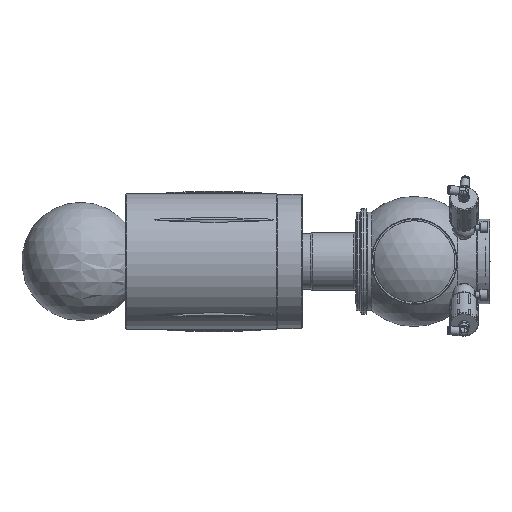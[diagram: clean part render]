
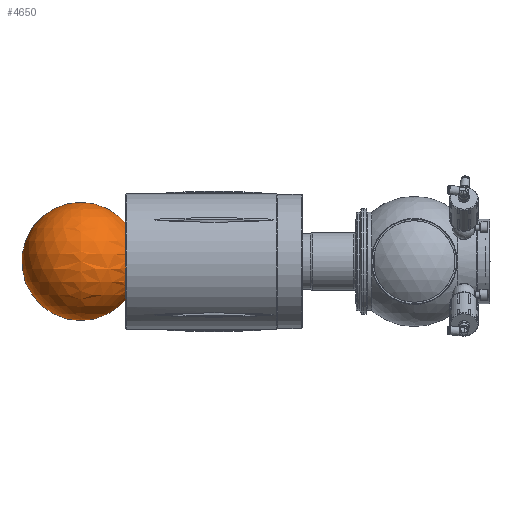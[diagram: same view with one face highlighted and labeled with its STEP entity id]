
A CAD part, left-side view. The second image highlights one B-rep face of the part: STEP entity #4650.
In plain terms, the highlighted spherical face has radius 72.5 mm.
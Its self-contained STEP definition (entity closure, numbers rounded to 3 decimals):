
#114=SPHERICAL_SURFACE('',#5315,72.5);
#320=FACE_BOUND('',#1147,.T.);
#860=FACE_OUTER_BOUND('',#1146,.T.);
#1146=EDGE_LOOP('',(#4370,#4371));
#1147=EDGE_LOOP('',(#4372));
#1881=CIRCLE('',#5316,72.5);
#1882=CIRCLE('',#5317,46.648);
#2358=VERTEX_POINT('',#11631);
#2359=VERTEX_POINT('',#11632);
#2360=VERTEX_POINT('',#11634);
#3030=EDGE_CURVE('',#2358,#2359,#1881,.T.);
#3031=EDGE_CURVE('',#2360,#2360,#1882,.T.);
#4370=ORIENTED_EDGE('',*,*,#3030,.T.);
#4371=ORIENTED_EDGE('',*,*,#3030,.F.);
#4372=ORIENTED_EDGE('',*,*,#3031,.F.);
#4650=ADVANCED_FACE('',(#860,#320),#114,.T.);
#5315=AXIS2_PLACEMENT_3D('',#11630,#6636,#6637);
#5316=AXIS2_PLACEMENT_3D('',#11633,#6638,#6639);
#5317=AXIS2_PLACEMENT_3D('',#11635,#6640,#6641);
#6636=DIRECTION('center_axis',(0.,0.,1.));
#6637=DIRECTION('ref_axis',(1.,0.,0.));
#6638=DIRECTION('center_axis',(0.,-1.,0.));
#6639=DIRECTION('ref_axis',(-1.,0.,0.));
#6640=DIRECTION('center_axis',(0.,-1.,0.));
#6641=DIRECTION('ref_axis',(1.,0.,0.));
#11630=CARTESIAN_POINT('Origin',(150.,266.5,0.));
#11631=CARTESIAN_POINT('',(150.,266.5,72.5));
#11632=CARTESIAN_POINT('',(150.,266.5,-72.5));
#11633=CARTESIAN_POINT('Origin',(150.,266.5,0.));
#11634=CARTESIAN_POINT('',(196.648,211.,0.));
#11635=CARTESIAN_POINT('Origin',(150.,211.,0.));
